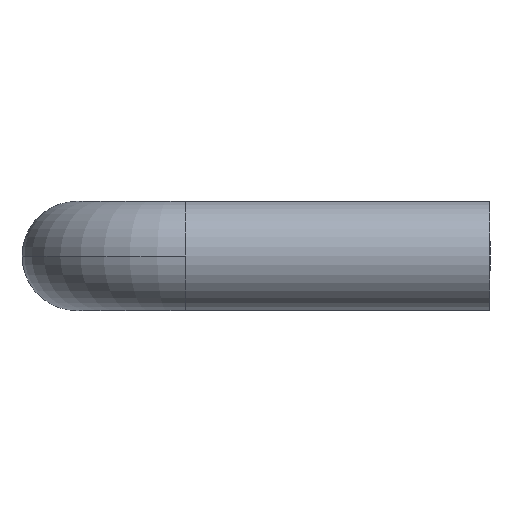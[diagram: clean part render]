
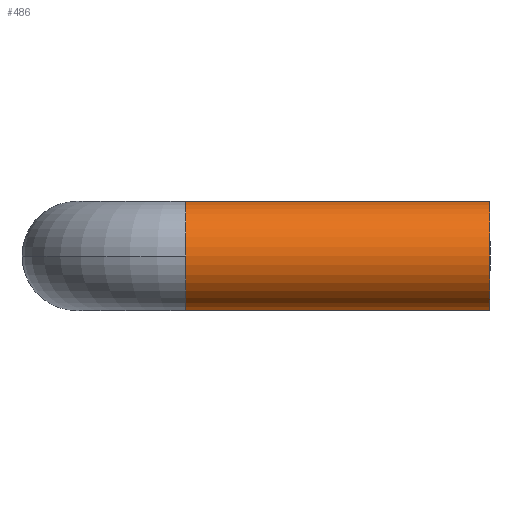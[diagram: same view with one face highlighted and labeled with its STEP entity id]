
A CAD part, left-side view. The second image highlights one B-rep face of the part: STEP entity #486.
In plain terms, the highlighted cylindrical face has radius 3.5 mm (diameter 7 mm), a partial arc.
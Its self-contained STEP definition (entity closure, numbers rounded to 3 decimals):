
#9 = DIRECTION ( 'NONE',  ( 0., -1., 0. ) ) ;
#10 = CARTESIAN_POINT ( 'NONE',  ( -34., -7., 0. ) ) ;
#41 = AXIS2_PLACEMENT_3D ( 'NONE', #10, #9, #346 ) ;
#45 = AXIS2_PLACEMENT_3D ( 'NONE', #362, #363, #364 ) ;
#66 = AXIS2_PLACEMENT_3D ( 'NONE', #442, #443, #444 ) ;
#67 = AXIS2_PLACEMENT_3D ( 'NONE', #445, #446, #447 ) ;
#106 = ORIENTED_EDGE ( 'NONE', *, *, #511, .T. ) ;
#107 = ORIENTED_EDGE ( 'NONE', *, *, #491, .F. ) ;
#108 = ORIENTED_EDGE ( 'NONE', *, *, #509, .F. ) ;
#112 = ORIENTED_EDGE ( 'NONE', *, *, #521, .F. ) ;
#114 = ORIENTED_EDGE ( 'NONE', *, *, #522, .T. ) ;
#129 = CARTESIAN_POINT ( 'NONE',  ( -34., -26.5, -3.5 ) ) ;
#167 = CARTESIAN_POINT ( 'NONE',  ( -34., -26.5, 3.5 ) ) ;
#170 = CARTESIAN_POINT ( 'NONE',  ( -34., -7., 3.5 ) ) ;
#171 = CARTESIAN_POINT ( 'NONE',  ( -34., -7., -3.5 ) ) ;
#173 = CARTESIAN_POINT ( 'NONE',  ( -37.5, -7., 0. ) ) ;
#232 = EDGE_LOOP ( 'NONE', ( #108, #112, #107, #106, #114 ) ) ;
#243 = VERTEX_POINT ( 'NONE', #173 ) ;
#246 = VERTEX_POINT ( 'NONE', #171 ) ;
#250 = VERTEX_POINT ( 'NONE', #170 ) ;
#255 = VERTEX_POINT ( 'NONE', #129 ) ;
#260 = VERTEX_POINT ( 'NONE', #167 ) ;
#290 = FACE_OUTER_BOUND ( 'NONE', #232, .T. ) ;
#295 = CYLINDRICAL_SURFACE ( 'NONE', #41, 3.5 ) ;
#298 = CIRCLE ( 'NONE', #45, 3.5 ) ;
#321 = LINE ( 'NONE', #410, #323 ) ;
#323 = VECTOR ( 'NONE', #406, 1000. ) ;
#324 = LINE ( 'NONE', #415, #326 ) ;
#326 = VECTOR ( 'NONE', #411, 1000. ) ;
#338 = CIRCLE ( 'NONE', #66, 3.5 ) ;
#339 = CIRCLE ( 'NONE', #67, 3.5 ) ;
#346 = DIRECTION ( 'NONE',  ( 0., 0., -1. ) ) ;
#362 = CARTESIAN_POINT ( 'NONE',  ( -34., -7., 0. ) ) ;
#363 = DIRECTION ( 'NONE',  ( 0., 1., 0. ) ) ;
#364 = DIRECTION ( 'NONE',  ( -1., 0., 0. ) ) ;
#406 = DIRECTION ( 'NONE',  ( 0., -1., 0. ) ) ;
#410 = CARTESIAN_POINT ( 'NONE',  ( -34., -7., 3.5 ) ) ;
#411 = DIRECTION ( 'NONE',  ( 0., -1., 0. ) ) ;
#415 = CARTESIAN_POINT ( 'NONE',  ( -34., -7., -3.5 ) ) ;
#442 = CARTESIAN_POINT ( 'NONE',  ( -34., -7., 0. ) ) ;
#443 = DIRECTION ( 'NONE',  ( 0., 1., 0. ) ) ;
#444 = DIRECTION ( 'NONE',  ( -1., 0., 0. ) ) ;
#445 = CARTESIAN_POINT ( 'NONE',  ( -34., -26.5, 0. ) ) ;
#446 = DIRECTION ( 'NONE',  ( 0., 1., 0. ) ) ;
#447 = DIRECTION ( 'NONE',  ( -1., 0., 0. ) ) ;
#486 = ADVANCED_FACE ( 'NONE', ( #290 ), #295, .T. ) ;
#491 = EDGE_CURVE ( 'NONE', #246, #243, #298, .T. ) ;
#509 = EDGE_CURVE ( 'NONE', #250, #260, #321, .T. ) ;
#511 = EDGE_CURVE ( 'NONE', #246, #255, #324, .T. ) ;
#521 = EDGE_CURVE ( 'NONE', #243, #250, #338, .T. ) ;
#522 = EDGE_CURVE ( 'NONE', #255, #260, #339, .T. ) ;
